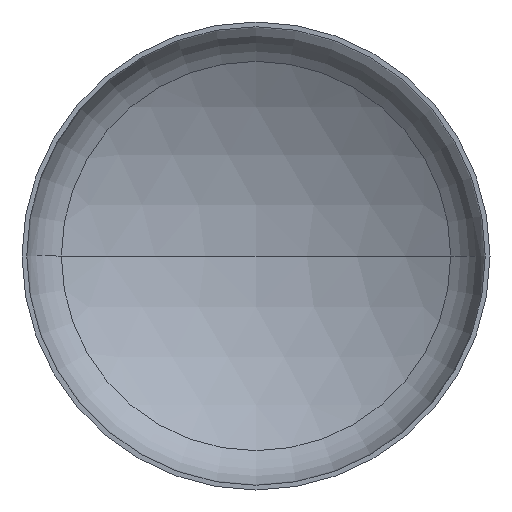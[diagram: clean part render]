
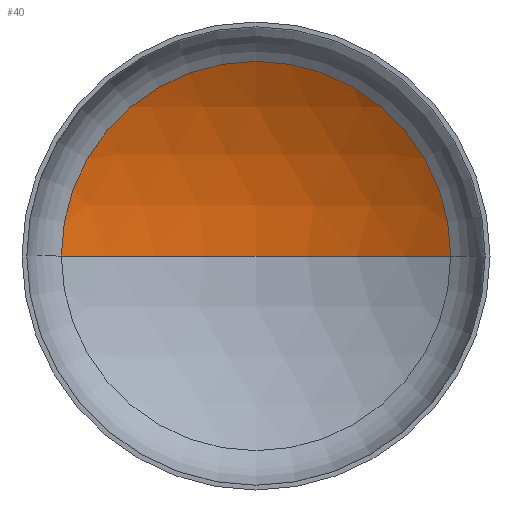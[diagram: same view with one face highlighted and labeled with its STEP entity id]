
A CAD part, front view. The second image highlights one B-rep face of the part: STEP entity #40.
In plain terms, the highlighted spherical face has radius 6000 mm.
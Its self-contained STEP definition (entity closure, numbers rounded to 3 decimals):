
#36 = ORIENTED_EDGE ( 'NONE', *, *, #110, .F. ) ;
#40 = ADVANCED_FACE ( 'NONE', ( #123 ), #226, .F. ) ;
#44 = VERTEX_POINT ( 'NONE', #253 ) ;
#54 = AXIS2_PLACEMENT_3D ( 'NONE', #200, #201, #182 ) ;
#58 = AXIS2_PLACEMENT_3D ( 'NONE', #304, #216, #212 ) ;
#63 = AXIS2_PLACEMENT_3D ( 'NONE', #162, #187, #189 ) ;
#78 = AXIS2_PLACEMENT_3D ( 'NONE', #295, #289, #272 ) ;
#106 = EDGE_CURVE ( 'NONE', #44, #351, #329, .T. ) ;
#108 = EDGE_CURVE ( 'NONE', #173, #44, #270, .T. ) ;
#110 = EDGE_CURVE ( 'NONE', #173, #351, #207, .T. ) ;
#123 = FACE_OUTER_BOUND ( 'NONE', #150, .T. ) ;
#149 = CARTESIAN_POINT ( 'NONE',  ( 0., 1981.321, 0. ) ) ;
#150 = EDGE_LOOP ( 'NONE', ( #36, #193, #165 ) ) ;
#162 = CARTESIAN_POINT ( 'NONE',  ( 0., 1106.62, 0. ) ) ;
#165 = ORIENTED_EDGE ( 'NONE', *, *, #106, .T. ) ;
#173 = VERTEX_POINT ( 'NONE', #149 ) ;
#182 = DIRECTION ( 'NONE',  ( 1., 0., 0. ) ) ;
#187 = DIRECTION ( 'NONE',  ( 0., -1., 0. ) ) ;
#189 = DIRECTION ( 'NONE',  ( 1., 0., 0. ) ) ;
#193 = ORIENTED_EDGE ( 'NONE', *, *, #108, .T. ) ;
#200 = CARTESIAN_POINT ( 'NONE',  ( 0., -4018.679, 0. ) ) ;
#201 = DIRECTION ( 'NONE',  ( 0., 0., 1. ) ) ;
#207 = CIRCLE ( 'NONE', #54, 6000. ) ;
#212 = DIRECTION ( 'NONE',  ( -1., 0., 0. ) ) ;
#216 = DIRECTION ( 'NONE',  ( 0., 0., -1. ) ) ;
#226 = SPHERICAL_SURFACE ( 'NONE', #78, 6000. ) ;
#253 = CARTESIAN_POINT ( 'NONE',  ( 3119.505, 1106.62, 0. ) ) ;
#270 = CIRCLE ( 'NONE', #58, 6000. ) ;
#272 = DIRECTION ( 'NONE',  ( -1., 0., 0. ) ) ;
#289 = DIRECTION ( 'NONE',  ( 0., 0., -1. ) ) ;
#295 = CARTESIAN_POINT ( 'NONE',  ( 0., -4018.679, 0. ) ) ;
#304 = CARTESIAN_POINT ( 'NONE',  ( 0., -4018.679, 0. ) ) ;
#329 = CIRCLE ( 'NONE', #63, 3119.505 ) ;
#351 = VERTEX_POINT ( 'NONE', #390 ) ;
#390 = CARTESIAN_POINT ( 'NONE',  ( -3119.505, 1106.62, 0. ) ) ;
